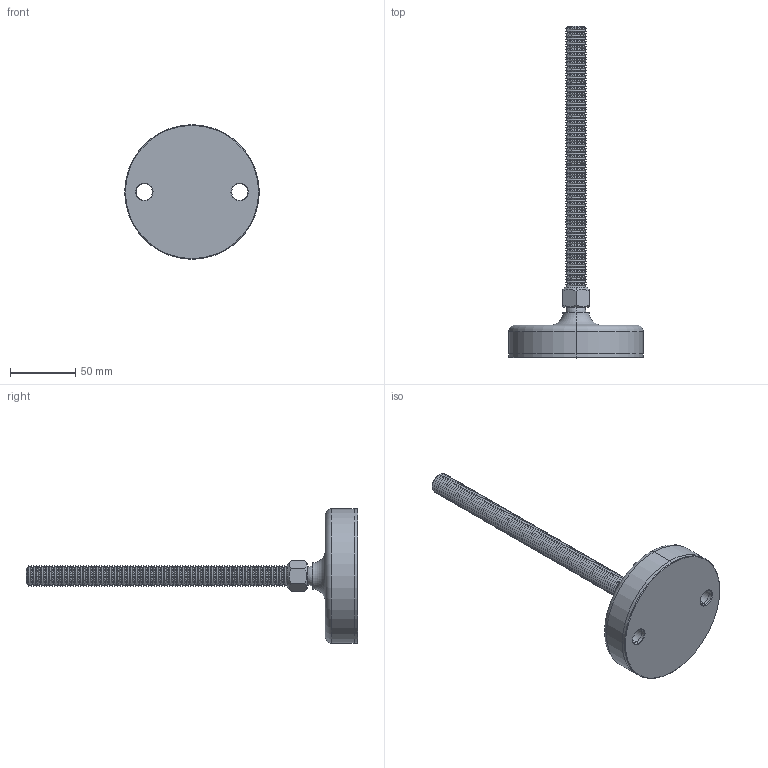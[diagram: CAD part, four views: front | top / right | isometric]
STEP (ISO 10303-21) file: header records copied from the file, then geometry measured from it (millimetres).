
FILE_DESCRIPTION (( 'STEP AP203' ), '1' );
FILE_NAME ('34724.W1703.step', '2019-11-28T22:14:51', ( '' ), ( '' ), 'SwSTEP 2.0', 'SolidWorks 2017', '' );
FILE_SCHEMA (( 'CONFIG_CONTROL_DESIGN' ));
Length unit declared in the file: millimetre
Products named in the file (4): Part3_34724.W1703; Part2_34724.W1703; Part1_34724.W1703; 34724.W1703
Assembly tree (3 placements, depth 2):
  34724.W1703
    Part1_34724.W1703
    Part2_34724.W1703
    Part3_34724.W1703
Bounding box: 103 x 254 x 103 mm (x, y, z)
Volume: 243050.4 mm3; surface area: 61959.9 mm2
Topology: 3 solids, 3 shells, 452 faces, 919 edges, 473 vertices
Faces by surface type: cone 418, plane 14, cylinder 12, sphere 4, torus 4
Entity records: 11966 total; most frequent: DIRECTION 2276, CARTESIAN_POINT 1988, ORIENTED_EDGE 1820, AXIS2_PLACEMENT_3D 920, EDGE_CURVE 910, VERTEX_POINT 468, EDGE_LOOP 464, CIRCLE 462
